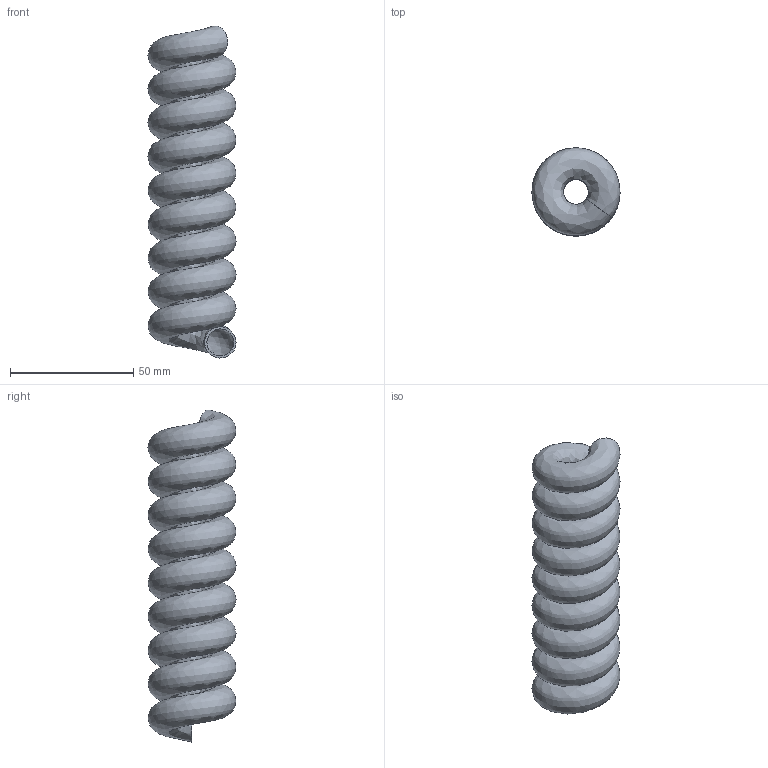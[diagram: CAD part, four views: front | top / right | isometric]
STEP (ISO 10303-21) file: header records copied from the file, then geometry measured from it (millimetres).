
FILE_DESCRIPTION(('Open CASCADE Model'),'2;1');
FILE_NAME('Open CASCADE Shape Model','2026-10-21T10:33:18',('Author'),( 'Open CASCADE'),'Open CASCADE STEP processor 7.9','Open CASCADE 7.9' ,'Unknown');
FILE_SCHEMA(('AUTOMOTIVE_DESIGN { 1 0 10303 214 1 1 1 1 }'));
Length unit declared in the file: millimetre
Products named in the file (1): Open CASCADE STEP translator 7.9 13
Bounding box: 35.7 x 35.69 x 134.61 mm (x, y, z)
Volume: 21235.3 mm3; surface area: 48244.3 mm2
Topology: 1 solids, 1 shells, 4 faces, 6 edges, 4 vertices
Faces by surface type: bspline 2, plane 2
Entity records: 2380 total; most frequent: CARTESIAN_POINT 2263, DIRECTION 14, ORIENTED_EDGE 12, PCURVE 12, DEFINITIONAL_REPRESENTATION 12, LINE 8, VECTOR 8, FACE_BOUND 6
